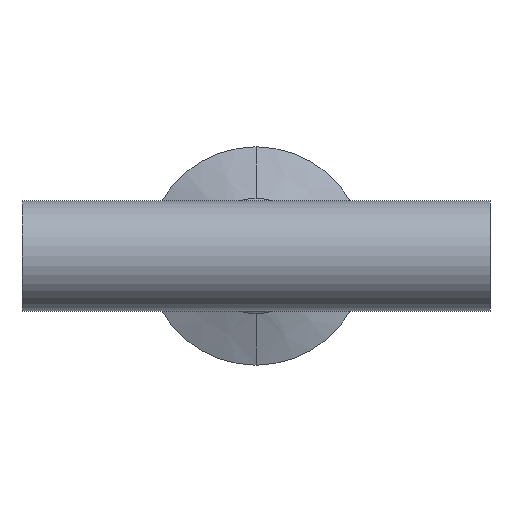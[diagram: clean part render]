
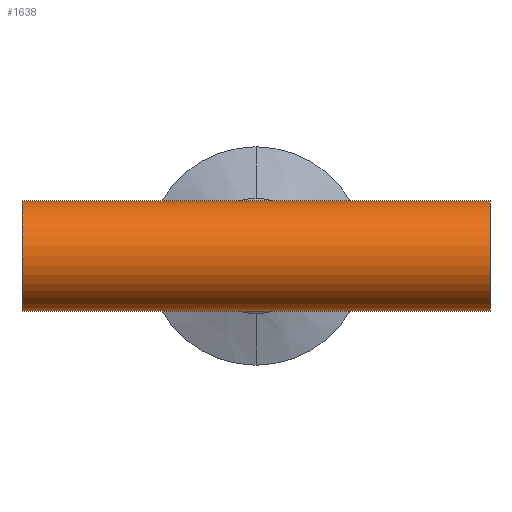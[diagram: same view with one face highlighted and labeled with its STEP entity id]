
A CAD part, front view. The second image highlights one B-rep face of the part: STEP entity #1638.
In plain terms, the highlighted cylindrical face has radius 12.7 mm (diameter 25.4 mm), a partial arc.
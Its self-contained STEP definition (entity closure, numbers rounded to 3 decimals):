
#5 = CARTESIAN_POINT ( 'NONE',  ( -54., 0., 12.7 ) ) ;
#8 = VERTEX_POINT ( 'NONE', #255 ) ;
#74 = EDGE_CURVE ( 'NONE', #590, #237, #1454, .T. ) ;
#79 = DIRECTION ( 'NONE',  ( 1., 0., 0. ) ) ;
#87 = LINE ( 'NONE', #365, #801 ) ;
#166 = CARTESIAN_POINT ( 'NONE',  ( -54., 0., 12.7 ) ) ;
#189 = DIRECTION ( 'NONE',  ( 0., 0., -1. ) ) ;
#214 = CARTESIAN_POINT ( 'NONE',  ( -54., 0., -12.7 ) ) ;
#227 = AXIS2_PLACEMENT_3D ( 'NONE', #702, #1375, #1654 ) ;
#235 = DIRECTION ( 'NONE',  ( 1., 0., 0. ) ) ;
#237 = VERTEX_POINT ( 'NONE', #628 ) ;
#248 = VECTOR ( 'NONE', #79, 1000. ) ;
#255 = CARTESIAN_POINT ( 'NONE',  ( 0., 0., 12.7 ) ) ;
#365 = CARTESIAN_POINT ( 'NONE',  ( -54., 0., -12.7 ) ) ;
#380 = CARTESIAN_POINT ( 'NONE',  ( -54., 0., -12.7 ) ) ;
#426 = VERTEX_POINT ( 'NONE', #166 ) ;
#460 = CYLINDRICAL_SURFACE ( 'NONE', #1462, 12.7 ) ;
#501 = FACE_OUTER_BOUND ( 'NONE', #1437, .T. ) ;
#517 = LINE ( 'NONE', #1164, #610 ) ;
#578 = AXIS2_PLACEMENT_3D ( 'NONE', #1242, #1179, #189 ) ;
#590 = VERTEX_POINT ( 'NONE', #906 ) ;
#591 = VERTEX_POINT ( 'NONE', #1533 ) ;
#596 = CIRCLE ( 'NONE', #578, 12.7 ) ;
#610 = VECTOR ( 'NONE', #1152, 1000. ) ;
#613 = CIRCLE ( 'NONE', #227, 12.7 ) ;
#628 = CARTESIAN_POINT ( 'NONE',  ( 54., 0., -12.7 ) ) ;
#702 = CARTESIAN_POINT ( 'NONE',  ( 54., 0., 0. ) ) ;
#796 = EDGE_CURVE ( 'NONE', #237, #591, #613, .T. ) ;
#798 = LINE ( 'NONE', #5, #248 ) ;
#799 = EDGE_CURVE ( 'NONE', #426, #1340, #596, .T. ) ;
#801 = VECTOR ( 'NONE', #1250, 1000. ) ;
#906 = CARTESIAN_POINT ( 'NONE',  ( 0., 0., -12.7 ) ) ;
#913 = ORIENTED_EDGE ( 'NONE', *, *, #1567, .F. ) ;
#930 = ORIENTED_EDGE ( 'NONE', *, *, #796, .T. ) ;
#955 = ORIENTED_EDGE ( 'NONE', *, *, #74, .T. ) ;
#967 = ORIENTED_EDGE ( 'NONE', *, *, #1292, .T. ) ;
#988 = ORIENTED_EDGE ( 'NONE', *, *, #799, .T. ) ;
#1052 = VECTOR ( 'NONE', #235, 1000. ) ;
#1152 = DIRECTION ( 'NONE',  ( 1., 0., 0. ) ) ;
#1164 = CARTESIAN_POINT ( 'NONE',  ( -54., 0., 12.7 ) ) ;
#1179 = DIRECTION ( 'NONE',  ( 1., 0., 0. ) ) ;
#1242 = CARTESIAN_POINT ( 'NONE',  ( -54., 0., 0. ) ) ;
#1243 = ORIENTED_EDGE ( 'NONE', *, *, #1456, .F. ) ;
#1250 = DIRECTION ( 'NONE',  ( 1., 0., 0. ) ) ;
#1292 = EDGE_CURVE ( 'NONE', #1340, #590, #87, .T. ) ;
#1340 = VERTEX_POINT ( 'NONE', #214 ) ;
#1375 = DIRECTION ( 'NONE',  ( -1., 0., 0. ) ) ;
#1437 = EDGE_LOOP ( 'NONE', ( #1243, #988, #967, #955, #930, #913 ) ) ;
#1454 = LINE ( 'NONE', #380, #1052 ) ;
#1456 = EDGE_CURVE ( 'NONE', #426, #8, #798, .T. ) ;
#1462 = AXIS2_PLACEMENT_3D ( 'NONE', #1621, #1595, #1626 ) ;
#1533 = CARTESIAN_POINT ( 'NONE',  ( 54., 0., 12.7 ) ) ;
#1567 = EDGE_CURVE ( 'NONE', #8, #591, #517, .T. ) ;
#1595 = DIRECTION ( 'NONE',  ( 1., 0., 0. ) ) ;
#1621 = CARTESIAN_POINT ( 'NONE',  ( -54., 0., 0. ) ) ;
#1626 = DIRECTION ( 'NONE',  ( 0., 0., -1. ) ) ;
#1638 = ADVANCED_FACE ( 'NONE', ( #501 ), #460, .T. ) ;
#1654 = DIRECTION ( 'NONE',  ( 0., 0., -1. ) ) ;
